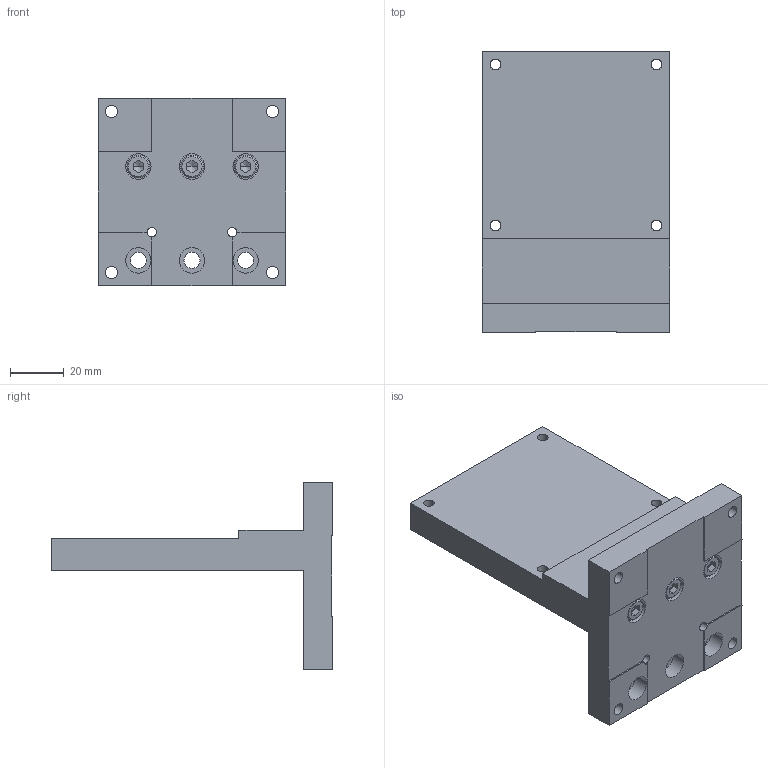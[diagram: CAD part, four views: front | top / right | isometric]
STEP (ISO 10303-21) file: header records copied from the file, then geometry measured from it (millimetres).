
FILE_DESCRIPTION( (''), '2;1');
FILE_NAME ('ZB07.stp','2020-07-21T17:02:48',(''),(''),'spGate 15.6.6','','');
FILE_SCHEMA (('AUTOMOTIVE_DESIGN'));
Length unit declared in the file: millimetre
Products named in the file (2): Assembly; ZB07-prt0
Assembly tree (1 placements, depth 2):
  Assembly
    ZB07-prt0
Bounding box: 70 x 105 x 70 mm (x, y, z)
Volume: 131996.1 mm3; surface area: 31548.8 mm2
Topology: 1 solids, 1 shells, 149 faces, 354 edges, 217 vertices
Faces by surface type: plane 75, cylinder 56, bspline 18
Entity records: 7232 total; most frequent: CARTESIAN_POINT 966, ORIENTED_EDGE 696, DIRECTION 692, COLOUR_RGB 498, PRESENTATION_STYLE_ASSIGNMENT 498, STYLED_ITEM 498, EDGE_CURVE 348, DRAUGHTING_PRE_DEFINED_CURVE_FONT 348
